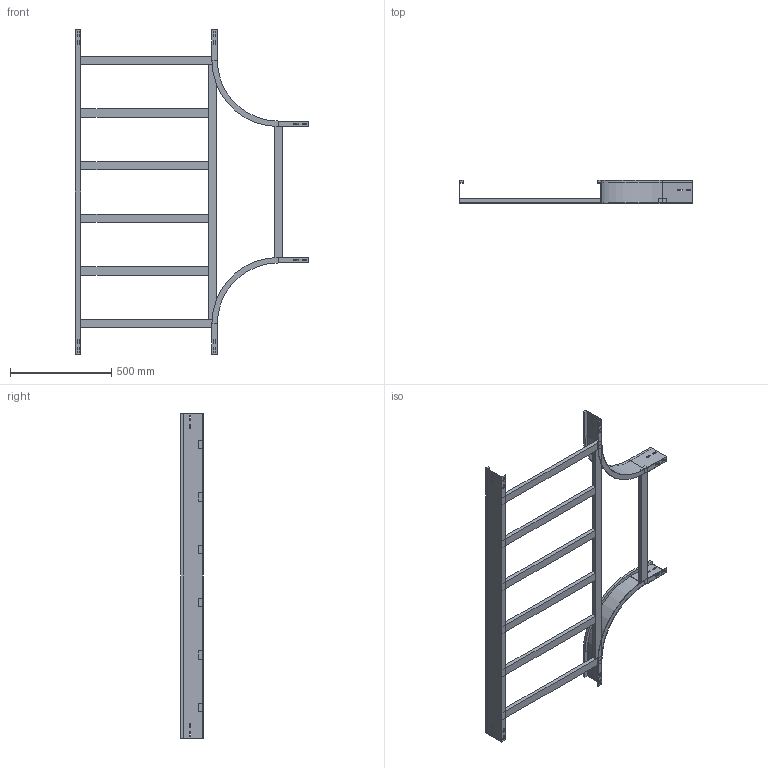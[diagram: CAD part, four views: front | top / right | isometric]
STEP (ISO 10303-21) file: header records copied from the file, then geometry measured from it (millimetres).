
FILE_DESCRIPTION (( 'STEP AP214' ), '1' );
FILE_NAME ('A2_15B3J700.step', '2025-02-21T15:51:40', ( '' ), ( '' ), 'SwSTEP 2.0', 'SolidWorks 2023', '' );
FILE_SCHEMA (( 'AUTOMOTIVE_DESIGN' ));
Length unit declared in the file: millimetre
Products named in the file (6): A2_LONGH.RETT_H112.5_R300+700; TRAVERSINO_INTERMEDIO_R300+700; TRAVERSINO_700; A2_15B3J700; A2_LONGH.INTERNO 90°_H112.5_R300; A2_TRAVERSINO_LONG._R300+700
Assembly tree (11 placements, depth 2):
  A2_15B3J700
    A2_LONGH.INTERNO 90°_H112.5_R300  x2
    A2_LONGH.RETT_H112.5_R300+700
    TRAVERSINO_700  x3
    A2_TRAVERSINO_LONG._R300+700
    TRAVERSINO_INTERMEDIO_R300+700  x4
Bounding box: 1150 x 112.5 x 1600 mm (x, y, z)
Volume: 6304456.5 mm3; surface area: 1715536.7 mm2
Topology: 11 solids, 11 shells, 206 faces, 520 edges, 336 vertices
Faces by surface type: plane 198, cylinder 8
Entity records: 3831 total; most frequent: CARTESIAN_POINT 640, ORIENTED_EDGE 616, DIRECTION 580, EDGE_CURVE 308, VECTOR 300, LINE 300, VERTEX_POINT 200, EDGE_LOOP 150
